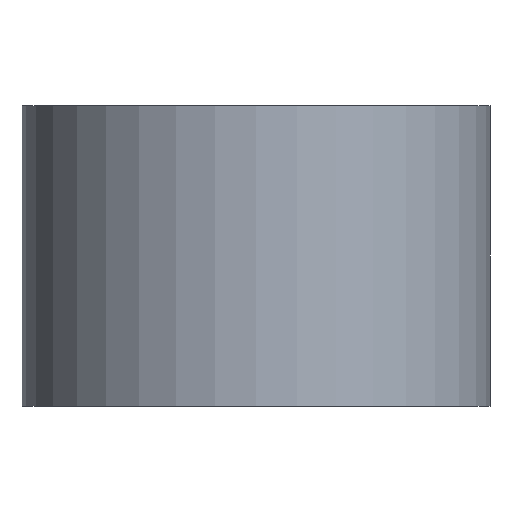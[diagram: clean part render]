
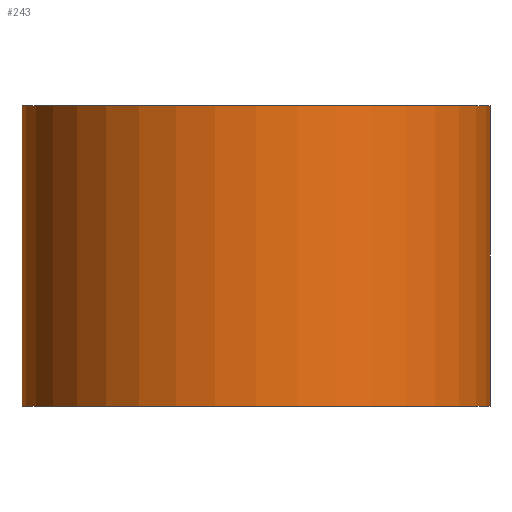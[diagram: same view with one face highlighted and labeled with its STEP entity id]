
A CAD part, front view. The second image highlights one B-rep face of the part: STEP entity #243.
In plain terms, the highlighted cylindrical face has radius 5.065 mm (diameter 10.13 mm), a partial arc.
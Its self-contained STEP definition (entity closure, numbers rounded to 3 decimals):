
#1 = EDGE_CURVE ( 'NONE', #94, #151, #50, .T. ) ;
#4 = EDGE_CURVE ( 'NONE', #26, #32, #239, .T. ) ;
#6 = ORIENTED_EDGE ( 'NONE', *, *, #4, .F. ) ;
#16 = ORIENTED_EDGE ( 'NONE', *, *, #1, .T. ) ;
#21 = CARTESIAN_POINT ( 'NONE',  ( 5.065, 0., 6.5 ) ) ;
#22 = DIRECTION ( 'NONE',  ( -1., 0., 0. ) ) ;
#26 = VERTEX_POINT ( 'NONE', #111 ) ;
#27 = LINE ( 'NONE', #248, #110 ) ;
#32 = VERTEX_POINT ( 'NONE', #53 ) ;
#45 = AXIS2_PLACEMENT_3D ( 'NONE', #154, #46, #138 ) ;
#46 = DIRECTION ( 'NONE',  ( 0., 0., 1. ) ) ;
#47 = CARTESIAN_POINT ( 'NONE',  ( 5.065, 0., 0. ) ) ;
#49 = AXIS2_PLACEMENT_3D ( 'NONE', #178, #116, #200 ) ;
#50 = CIRCLE ( 'NONE', #49, 5.065 ) ;
#53 = CARTESIAN_POINT ( 'NONE',  ( 5.065, 0., 6.5 ) ) ;
#60 = ORIENTED_EDGE ( 'NONE', *, *, #235, .T. ) ;
#68 = DIRECTION ( 'NONE',  ( 0., 0., -1. ) ) ;
#76 = EDGE_CURVE ( 'NONE', #32, #151, #185, .T. ) ;
#94 = VERTEX_POINT ( 'NONE', #168 ) ;
#103 = CYLINDRICAL_SURFACE ( 'NONE', #153, 5.065 ) ;
#110 = VECTOR ( 'NONE', #194, 1000. ) ;
#111 = CARTESIAN_POINT ( 'NONE',  ( -5.065, 0., 6.5 ) ) ;
#116 = DIRECTION ( 'NONE',  ( 0., 0., 1. ) ) ;
#118 = DIRECTION ( 'NONE',  ( 0., 0., -1. ) ) ;
#138 = DIRECTION ( 'NONE',  ( 1., 0., 0. ) ) ;
#149 = CARTESIAN_POINT ( 'NONE',  ( 0., 0., 6.5 ) ) ;
#150 = EDGE_LOOP ( 'NONE', ( #184, #6, #60, #16 ) ) ;
#151 = VERTEX_POINT ( 'NONE', #47 ) ;
#153 = AXIS2_PLACEMENT_3D ( 'NONE', #149, #118, #22 ) ;
#154 = CARTESIAN_POINT ( 'NONE',  ( 0., 0., 6.5 ) ) ;
#168 = CARTESIAN_POINT ( 'NONE',  ( -5.065, 0., 0. ) ) ;
#178 = CARTESIAN_POINT ( 'NONE',  ( 0., 0., 0. ) ) ;
#184 = ORIENTED_EDGE ( 'NONE', *, *, #76, .F. ) ;
#185 = LINE ( 'NONE', #21, #211 ) ;
#194 = DIRECTION ( 'NONE',  ( 0., 0., -1. ) ) ;
#200 = DIRECTION ( 'NONE',  ( 1., 0., 0. ) ) ;
#211 = VECTOR ( 'NONE', #68, 1000. ) ;
#214 = FACE_OUTER_BOUND ( 'NONE', #150, .T. ) ;
#235 = EDGE_CURVE ( 'NONE', #26, #94, #27, .T. ) ;
#239 = CIRCLE ( 'NONE', #45, 5.065 ) ;
#243 = ADVANCED_FACE ( 'NONE', ( #214 ), #103, .T. ) ;
#248 = CARTESIAN_POINT ( 'NONE',  ( -5.065, 0., 6.5 ) ) ;
